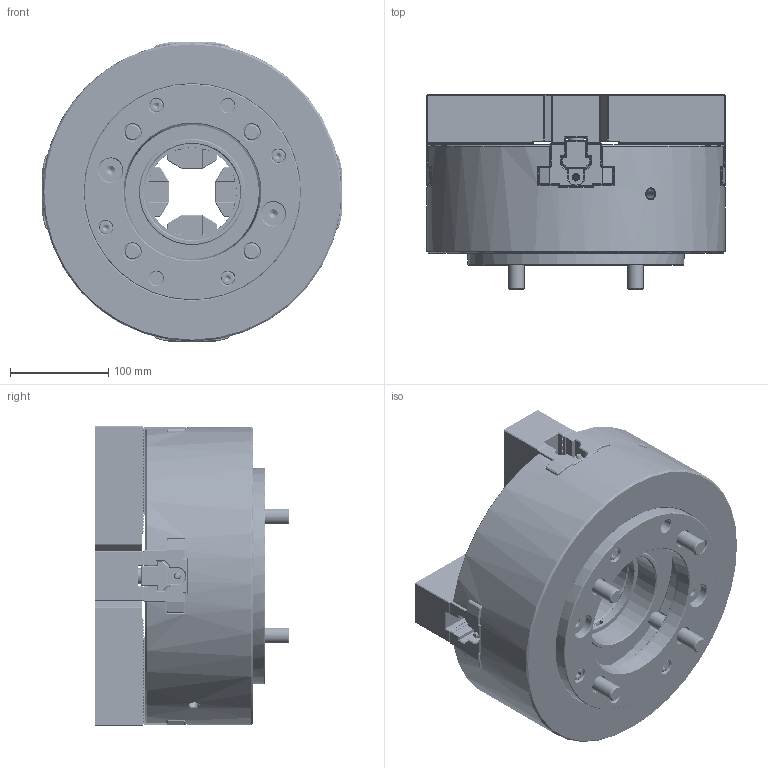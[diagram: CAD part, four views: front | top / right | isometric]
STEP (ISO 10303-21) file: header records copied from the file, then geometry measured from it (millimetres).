
FILE_DESCRIPTION(/* description */ (''),/* implementation_level */ '2;1');
FILE_NAME(/* name */ '\\Itserver\個人資料夾\柯玫如\8.網頁3D討論\1.中空油壓系列\1-1中空油壓夾頭\3.OPF系列\OPF-212\OPF-212-A8.stp',/* time_stamp */ '2024-08-27T09:28:45+08:00',/* author */ ('034'),/* organization */ (''),/* preprocessor_version */ 'ST-DEVELOPER v16.13',/* originating_system */ 'Autodesk Inventor 2018',/* authorisation */ '');
FILE_SCHEMA (('AUTOMOTIVE_DESIGN { 1 0 10303 214 3 1 1 }'));
Products named in the file (1): OPF-212-A8
Bounding box: 304.56 x 198.19 x 304.56 mm (x, y, z)
Volume: 8086488 mm3; surface area: 666802.9 mm2
Topology: 1 solids, 18 shells, 8108 faces, 26967 edges, 17151 vertices
Faces by surface type: plane 5154, cylinder 2291, bspline 362, cone 228, torus 69, sphere 4
Full cylindrical faces by diameter (mm): 3.8 x16, 4 x8, 5.1 x4, 5.2 x4, 6 x8, 6.5 x4, 6.8 x2, 8 x4, 9 x4, 10.3 x6, 10.5 x4, 11 x4, 13 x4, 14 x6, 16 x12, 17 x12, 24 x12, 24.2 x2, 25 x4, 26 x8, 91 x1, 91.2 x1, 94.5 x1, 95.9 x1, 96.2 x1, 98 x1, 101 x1, 108 x1, 117 x1, 136.1 x1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
Entity records: 294054 total; most frequent: CARTESIAN_POINT 58538, ORIENTED_EDGE 52952, DIRECTION 46017, EDGE_CURVE 26476, LINE 20313, VECTOR 20313, VERTEX_POINT 17003, AXIS2_PLACEMENT_3D 12852
